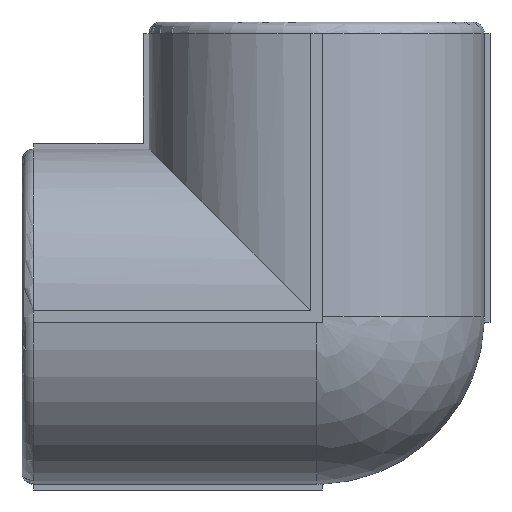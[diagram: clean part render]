
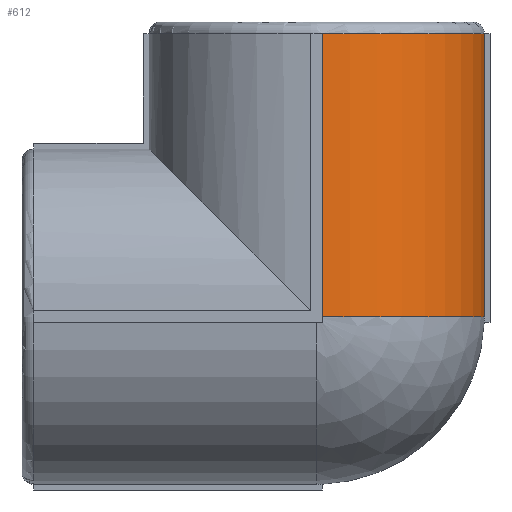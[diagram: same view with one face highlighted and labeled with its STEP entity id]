
A CAD part, left-side view. The second image highlights one B-rep face of the part: STEP entity #612.
In plain terms, the highlighted cylindrical face has radius 14.5 mm (diameter 29 mm), a partial arc.
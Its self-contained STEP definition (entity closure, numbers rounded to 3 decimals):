
#612=ADVANCED_FACE('',(#4780),#4782,.T.);
#4780=FACE_BOUND('',#4781,.T.);
#4781=EDGE_LOOP('',(#12121,#12122,#12123,#12124));
#4782=CYLINDRICAL_SURFACE('',#4783,14.5);
#4783=AXIS2_PLACEMENT_3D('',#4784,#4785,#4786);
#4784=CARTESIAN_POINT('',(0.,0.,0.));
#4785=DIRECTION('',(0.,0.,1.));
#4786=DIRECTION('',(-1.,0.,0.));
#12121=ORIENTED_EDGE('',*,*,#17345,.F.);
#12122=ORIENTED_EDGE('',*,*,#17303,.F.);
#12123=ORIENTED_EDGE('',*,*,#17344,.F.);
#12124=ORIENTED_EDGE('',*,*,#17339,.F.);
#17303=EDGE_CURVE('',#21277,#21279,#21280,.T.);
#17339=EDGE_CURVE('',#21338,#21340,#21341,.T.);
#17344=EDGE_CURVE('',#21340,#21277,#21348,.F.);
#17345=EDGE_CURVE('',#21279,#21338,#21349,.T.);
#21277=VERTEX_POINT('',#29351);
#21279=VERTEX_POINT('',#29356);
#21280=CIRCLE('',#29357,14.5);
#21338=VERTEX_POINT('',#29497);
#21340=VERTEX_POINT('',#29502);
#21341=CIRCLE('',#29503,14.5);
#21348=LINE('',#29587,#29588);
#21349=LINE('',#29590,#29591);
#29351=CARTESIAN_POINT('',(-0.5,-14.491,0.));
#29356=CARTESIAN_POINT('',(-14.491,-0.5,0.));
#29357=AXIS2_PLACEMENT_3D('',#29358,#29359,#29360);
#29358=CARTESIAN_POINT('',(0.,0.,0.));
#29359=DIRECTION('',(0.,0.,-1.));
#29360=DIRECTION('',(-0.034,-0.999,0.));
#29497=CARTESIAN_POINT('',(-14.491,-0.5,24.5));
#29502=CARTESIAN_POINT('',(-0.5,-14.491,24.5));
#29503=AXIS2_PLACEMENT_3D('',#29504,#29505,#29506);
#29504=CARTESIAN_POINT('',(0.,0.,24.5));
#29505=DIRECTION('',(0.,0.,1.));
#29506=DIRECTION('',(-0.999,-0.034,0.));
#29587=CARTESIAN_POINT('',(-0.5,-14.491,0.));
#29588=VECTOR('',#29589,1.);
#29589=DIRECTION('',(0.,0.,1.));
#29590=CARTESIAN_POINT('',(-14.491,-0.5,0.));
#29591=VECTOR('',#29592,1.);
#29592=DIRECTION('',(0.,0.,1.));
